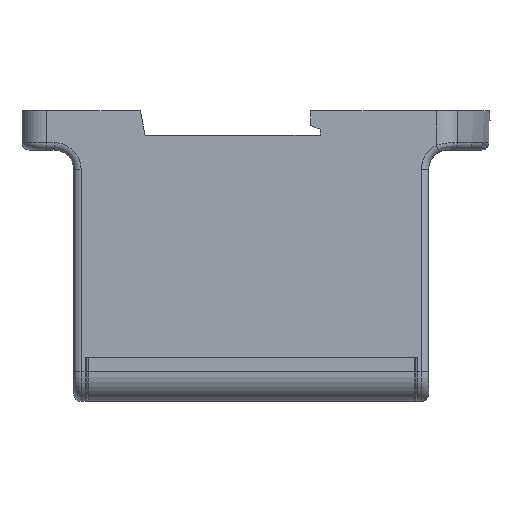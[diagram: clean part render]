
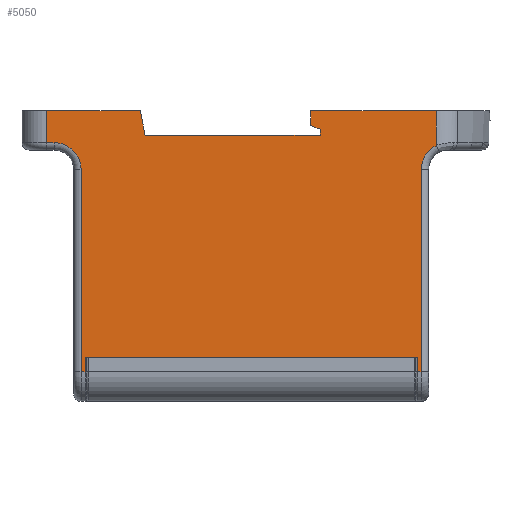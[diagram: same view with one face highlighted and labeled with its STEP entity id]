
A CAD part, front view. The second image highlights one B-rep face of the part: STEP entity #5050.
In plain terms, the highlighted planar face has unit normal (0, -1, 0).
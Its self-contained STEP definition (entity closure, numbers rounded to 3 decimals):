
#6=DIRECTION('',(1.,0.,0.));
#7=VECTOR('',#6,19.);
#8=CARTESIAN_POINT('',(-41.5,-25.75,0.));
#9=LINE('',#8,#7);
#132=DIRECTION('',(1.,0.,0.));
#133=VECTOR('',#132,25.476);
#134=CARTESIAN_POINT('',(12.1,-25.75,0.));
#135=LINE('',#134,#133);
#825=DIRECTION('',(0.,0.,-1.));
#826=VECTOR('',#825,3.);
#827=CARTESIAN_POINT('',(33.7,-25.75,-50.));
#828=LINE('',#827,#826);
#829=DIRECTION('',(0.,0.,1.));
#830=VECTOR('',#829,3.);
#831=CARTESIAN_POINT('',(-33.7,-25.75,-53.));
#832=LINE('',#831,#830);
#833=DIRECTION('',(1.,0.,0.));
#834=VECTOR('',#833,0.8);
#835=CARTESIAN_POINT('',(-34.5,-25.75,-53.));
#836=LINE('',#835,#834);
#837=DIRECTION('',(0.,0.,-1.));
#838=VECTOR('',#837,41.);
#839=CARTESIAN_POINT('',(-34.5,-25.75,-12.));
#840=LINE('',#839,#838);
#841=CARTESIAN_POINT('',(-40.,-25.75,-12.));
#842=DIRECTION('',(0.,1.,0.));
#843=DIRECTION('',(0.,0.,1.));
#844=AXIS2_PLACEMENT_3D('',#841,#842,#843);
#846=DIRECTION('',(1.,0.,0.));
#847=VECTOR('',#846,1.5);
#848=CARTESIAN_POINT('',(-41.5,-25.75,-6.5));
#849=LINE('',#848,#847);
#850=DIRECTION('',(0.,0.,-1.));
#851=VECTOR('',#850,6.5);
#852=CARTESIAN_POINT('',(-41.5,-25.75,0.));
#853=LINE('',#852,#851);
#854=DIRECTION('',(-0.196,0.,0.981));
#855=VECTOR('',#854,5.099);
#856=CARTESIAN_POINT('',(-21.5,-25.75,-5.));
#857=LINE('',#856,#855);
#858=DIRECTION('',(-1.,0.,0.));
#859=VECTOR('',#858,35.5);
#860=CARTESIAN_POINT('',(14.,-25.75,-5.));
#861=LINE('',#860,#859);
#862=DIRECTION('',(0.,0.,-1.));
#863=VECTOR('',#862,1.2);
#864=CARTESIAN_POINT('',(14.,-25.75,-3.8));
#865=LINE('',#864,#863);
#866=DIRECTION('',(0.922,0.,-0.388));
#867=VECTOR('',#866,2.062);
#868=CARTESIAN_POINT('',(12.1,-25.75,-3.));
#869=LINE('',#868,#867);
#870=DIRECTION('',(0.,0.,-1.));
#871=VECTOR('',#870,3.);
#872=CARTESIAN_POINT('',(12.1,-25.75,0.));
#873=LINE('',#872,#871);
#874=CARTESIAN_POINT('',(40.,-25.75,-12.));
#875=DIRECTION('',(0.,1.,0.));
#876=DIRECTION('',(-1.,0.,0.));
#877=AXIS2_PLACEMENT_3D('',#874,#875,#876);
#879=DIRECTION('',(0.,0.,1.));
#880=VECTOR('',#879,41.);
#881=CARTESIAN_POINT('',(34.5,-25.75,-53.));
#882=LINE('',#881,#880);
#883=DIRECTION('',(1.,0.,0.));
#884=VECTOR('',#883,0.8);
#885=CARTESIAN_POINT('',(33.7,-25.75,-53.));
#886=LINE('',#885,#884);
#950=CARTESIAN_POINT('',(37.576,-25.75,-7.063));
#958=DIRECTION('',(0.,0.,-1.));
#959=VECTOR('',#958,7.063);
#960=CARTESIAN_POINT('',(37.576,-25.75,0.));
#961=LINE('',#960,#959);
#2031=DIRECTION('',(1.,0.,0.));
#2032=VECTOR('',#2031,67.4);
#2033=CARTESIAN_POINT('',(-33.7,-25.75,-50.));
#2034=LINE('',#2033,#2032);
#3136=CARTESIAN_POINT('',(37.576,-25.75,0.));
#3138=VERTEX_POINT('',#3136);
#3149=CARTESIAN_POINT('',(-41.5,-25.75,0.));
#3151=VERTEX_POINT('',#3149);
#3304=CARTESIAN_POINT('',(-22.5,-25.75,0.));
#3306=VERTEX_POINT('',#3304);
#3312=CARTESIAN_POINT('',(12.1,-25.75,0.));
#3314=VERTEX_POINT('',#3312);
#3328=CARTESIAN_POINT('',(-21.5,-25.75,-5.));
#3329=VERTEX_POINT('',#3328);
#3330=CARTESIAN_POINT('',(12.1,-25.75,-3.));
#3331=VERTEX_POINT('',#3330);
#3332=CARTESIAN_POINT('',(14.,-25.75,-3.8));
#3333=VERTEX_POINT('',#3332);
#3334=CARTESIAN_POINT('',(14.,-25.75,-5.));
#3335=VERTEX_POINT('',#3334);
#3869=VERTEX_POINT('',#950);
#3871=CARTESIAN_POINT('',(34.5,-25.75,-12.));
#3872=VERTEX_POINT('',#3871);
#3875=CARTESIAN_POINT('',(34.5,-25.75,-53.));
#3876=VERTEX_POINT('',#3875);
#3925=CARTESIAN_POINT('',(-34.5,-25.75,-53.));
#3926=VERTEX_POINT('',#3925);
#3929=CARTESIAN_POINT('',(-34.5,-25.75,-12.));
#3930=VERTEX_POINT('',#3929);
#3933=CARTESIAN_POINT('',(-40.,-25.75,-6.5));
#3934=VERTEX_POINT('',#3933);
#3937=CARTESIAN_POINT('',(-41.5,-25.75,-6.5));
#3938=VERTEX_POINT('',#3937);
#3966=CARTESIAN_POINT('',(33.7,-25.75,-53.));
#3967=VERTEX_POINT('',#3966);
#3970=CARTESIAN_POINT('',(33.7,-25.75,-50.));
#3971=VERTEX_POINT('',#3970);
#4026=CARTESIAN_POINT('',(-33.7,-25.75,-53.));
#4027=CARTESIAN_POINT('',(-33.7,-25.75,-50.));
#4028=VERTEX_POINT('',#4026);
#4029=VERTEX_POINT('',#4027);
#5010=CARTESIAN_POINT('',(-41.5,-25.75,0.));
#5011=DIRECTION('',(0.,-1.,0.));
#5012=DIRECTION('',(1.,0.,0.));
#5013=AXIS2_PLACEMENT_3D('',#5010,#5011,#5012);
#5014=PLANE('',#5013);
#5016=ORIENTED_EDGE('',*,*,#5015,.F.);
#5018=ORIENTED_EDGE('',*,*,#5017,.F.);
#5020=ORIENTED_EDGE('',*,*,#5019,.F.);
#5022=ORIENTED_EDGE('',*,*,#5021,.F.);
#5024=ORIENTED_EDGE('',*,*,#5023,.F.);
#5026=ORIENTED_EDGE('',*,*,#5025,.F.);
#5028=ORIENTED_EDGE('',*,*,#5027,.F.);
#5029=ORIENTED_EDGE('',*,*,#5005,.F.);
#5030=ORIENTED_EDGE('',*,*,#4045,.T.);
#5031=ORIENTED_EDGE('',*,*,#4146,.F.);
#5032=ORIENTED_EDGE('',*,*,#4422,.F.);
#5034=ORIENTED_EDGE('',*,*,#5033,.F.);
#5036=ORIENTED_EDGE('',*,*,#5035,.F.);
#5038=ORIENTED_EDGE('',*,*,#5037,.F.);
#5039=ORIENTED_EDGE('',*,*,#4125,.T.);
#5041=ORIENTED_EDGE('',*,*,#5040,.T.);
#5043=ORIENTED_EDGE('',*,*,#5042,.F.);
#5045=ORIENTED_EDGE('',*,*,#5044,.F.);
#5047=ORIENTED_EDGE('',*,*,#5046,.F.);
#5048=EDGE_LOOP('',(#5016,#5018,#5020,#5022,#5024,#5026,#5028,#5029,#5030,#5031,
#5032,#5034,#5036,#5038,#5039,#5041,#5043,#5045,#5047));
#5049=FACE_OUTER_BOUND('',#5048,.F.);
#845=CIRCLE('',#844,5.5);
#878=CIRCLE('',#877,5.5);
#4045=EDGE_CURVE('',#3151,#3306,#9,.T.);
#4125=EDGE_CURVE('',#3314,#3138,#135,.T.);
#4146=EDGE_CURVE('',#3329,#3306,#857,.T.);
#4422=EDGE_CURVE('',#3335,#3329,#861,.T.);
#5005=EDGE_CURVE('',#3151,#3938,#853,.T.);
#5015=EDGE_CURVE('',#3971,#3967,#828,.T.);
#5017=EDGE_CURVE('',#4029,#3971,#2034,.T.);
#5019=EDGE_CURVE('',#4028,#4029,#832,.T.);
#5021=EDGE_CURVE('',#3926,#4028,#836,.T.);
#5023=EDGE_CURVE('',#3930,#3926,#840,.T.);
#5025=EDGE_CURVE('',#3934,#3930,#845,.T.);
#5027=EDGE_CURVE('',#3938,#3934,#849,.T.);
#5033=EDGE_CURVE('',#3333,#3335,#865,.T.);
#5035=EDGE_CURVE('',#3331,#3333,#869,.T.);
#5037=EDGE_CURVE('',#3314,#3331,#873,.T.);
#5040=EDGE_CURVE('',#3138,#3869,#961,.T.);
#5042=EDGE_CURVE('',#3872,#3869,#878,.T.);
#5044=EDGE_CURVE('',#3876,#3872,#882,.T.);
#5046=EDGE_CURVE('',#3967,#3876,#886,.T.);
#5050=ADVANCED_FACE('',(#5049),#5014,.T.);
